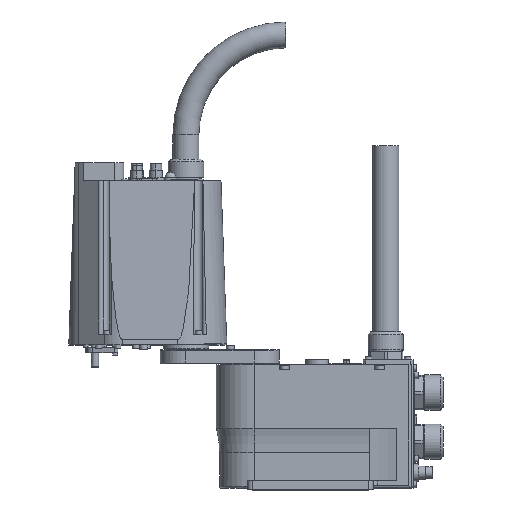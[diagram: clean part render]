
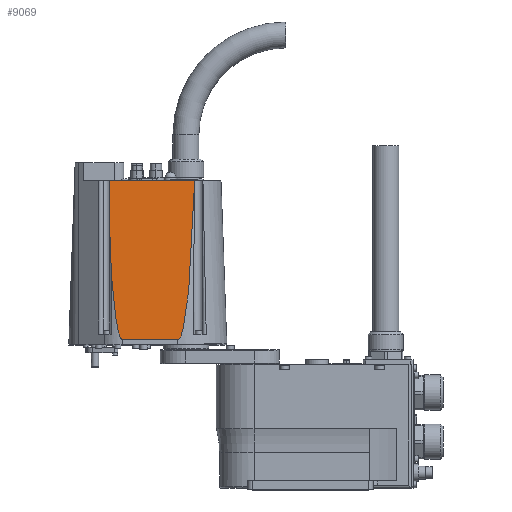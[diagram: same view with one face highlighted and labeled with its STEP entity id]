
A CAD part, top view. The second image highlights one B-rep face of the part: STEP entity #9069.
In plain terms, the highlighted planar face has unit normal (0, 0.035, 0.999).
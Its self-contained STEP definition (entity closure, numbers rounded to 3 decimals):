
#8285 = VERTEX_POINT( '', #23171 );
#9069 = ADVANCED_FACE( '', ( #24066 ), #24067, .F. );
#13707 = EDGE_CURVE( '', #14997, #14951, #29284, .T. );
#13885 = EDGE_CURVE( '', #8285, #14997, #29480, .T. );
#14707 = VERTEX_POINT( '', #30415 );
#14951 = VERTEX_POINT( '', #30698 );
#14997 = VERTEX_POINT( '', #30752 );
#15915 = EDGE_CURVE( '', #21647, #8285, #31770, .T. );
#18129 = EDGE_CURVE( '', #14707, #19851, #34247, .T. );
#19469 = EDGE_CURVE( '', #21647, #14707, #35730, .T. );
#19851 = VERTEX_POINT( '', #36180 );
#20191 = EDGE_CURVE( '', #19851, #14951, #36551, .T. );
#21647 = VERTEX_POINT( '', #38172 );
#23171 = CARTESIAN_POINT( '', ( -84.21, 163.5, 54. ) );
#24066 = FACE_OUTER_BOUND( '', #41384, .T. );
#24067 = PLANE( '', #41385 );
#29284 = ELLIPSE( '', #48453, 859.611, 30. );
#29480 = LINE( '', #48711, #48712 );
#30415 = CARTESIAN_POINT( '', ( -158.939, 338.3, 47.896 ) );
#30698 = CARTESIAN_POINT( '', ( -157.1, 235.221, 51.495 ) );
#30752 = CARTESIAN_POINT( '', ( -145.1, 163.5, 54. ) );
#31770 = ELLIPSE( '', #51866, 1548.243, 54. );
#34247 = ELLIPSE( '', #55258, 85.961, 3. );
#35730 = LINE( '', #57321, #57322 );
#36180 = CARTESIAN_POINT( '', ( -157.1, 241.074, 51.291 ) );
#36551 = LINE( '', #58427, #58428 );
#38172 = CARTESIAN_POINT( '', ( -65.359, 338.3, 47.896 ) );
#41384 = EDGE_LOOP( '', ( #63696, #63697, #63698, #63699, #63700, #63701 ) );
#41385 = AXIS2_PLACEMENT_3D( '', #63702, #63703, #63704 );
#48453 = AXIS2_PLACEMENT_3D( '', #69732, #69733, #69734 );
#48711 = CARTESIAN_POINT( '', ( -25.1, 163.5, 54. ) );
#48712 = VECTOR( '', #69921, 1. );
#51866 = AXIS2_PLACEMENT_3D( '', #72611, #72612, #72613 );
#55258 = AXIS2_PLACEMENT_3D( '', #75507, #75508, #75509 );
#57321 = CARTESIAN_POINT( '', ( -70.6, 338.3, 47.896 ) );
#57322 = VECTOR( '', #77152, 1. );
#58427 = CARTESIAN_POINT( '', ( -157.1, 163.544, 53.998 ) );
#58428 = VECTOR( '', #78161, 1. );
#63696 = ORIENTED_EDGE( '', *, *, #18129, .T. );
#63697 = ORIENTED_EDGE( '', *, *, #20191, .T. );
#63698 = ORIENTED_EDGE( '', *, *, #13707, .F. );
#63699 = ORIENTED_EDGE( '', *, *, #13885, .F. );
#63700 = ORIENTED_EDGE( '', *, *, #15915, .F. );
#63701 = ORIENTED_EDGE( '', *, *, #19469, .T. );
#63702 = CARTESIAN_POINT( '', ( 33.8, 157.5, 54.21 ) );
#63703 = DIRECTION( '', ( 0., -0.035, -0.999 ) );
#63704 = DIRECTION( '', ( 0., -0.999, 0.035 ) );
#69732 = CARTESIAN_POINT( '', ( -145.1, 1022.588, 24. ) );
#69733 = DIRECTION( '', ( 0., -0.035, -0.999 ) );
#69734 = DIRECTION( '', ( 0., -0.999, 0.035 ) );
#69921 = DIRECTION( '', ( -1., 0., 0. ) );
#72611 = CARTESIAN_POINT( '', ( -138.21, 1709.858, 0. ) );
#72612 = DIRECTION( '', ( 0., -0.035, -0.999 ) );
#72613 = DIRECTION( '', ( 0.035, -0.999, 0.035 ) );
#75507 = CARTESIAN_POINT( '', ( -156., 320.999, 48.5 ) );
#75508 = DIRECTION( '', ( 0., 0.035, 0.999 ) );
#75509 = DIRECTION( '', ( 0., -0.999, 0.035 ) );
#77152 = DIRECTION( '', ( -1., 0., 0. ) );
#78161 = DIRECTION( '', ( 0., -0.999, 0.035 ) );
